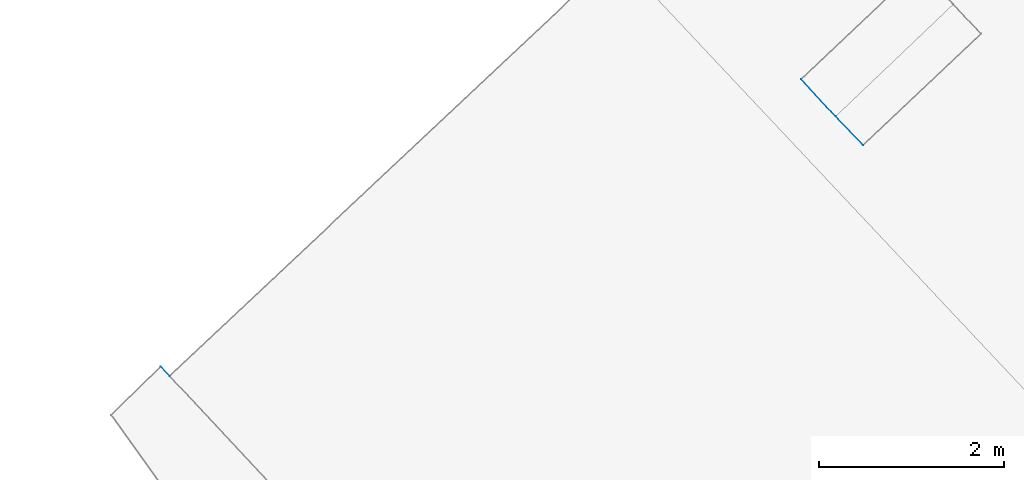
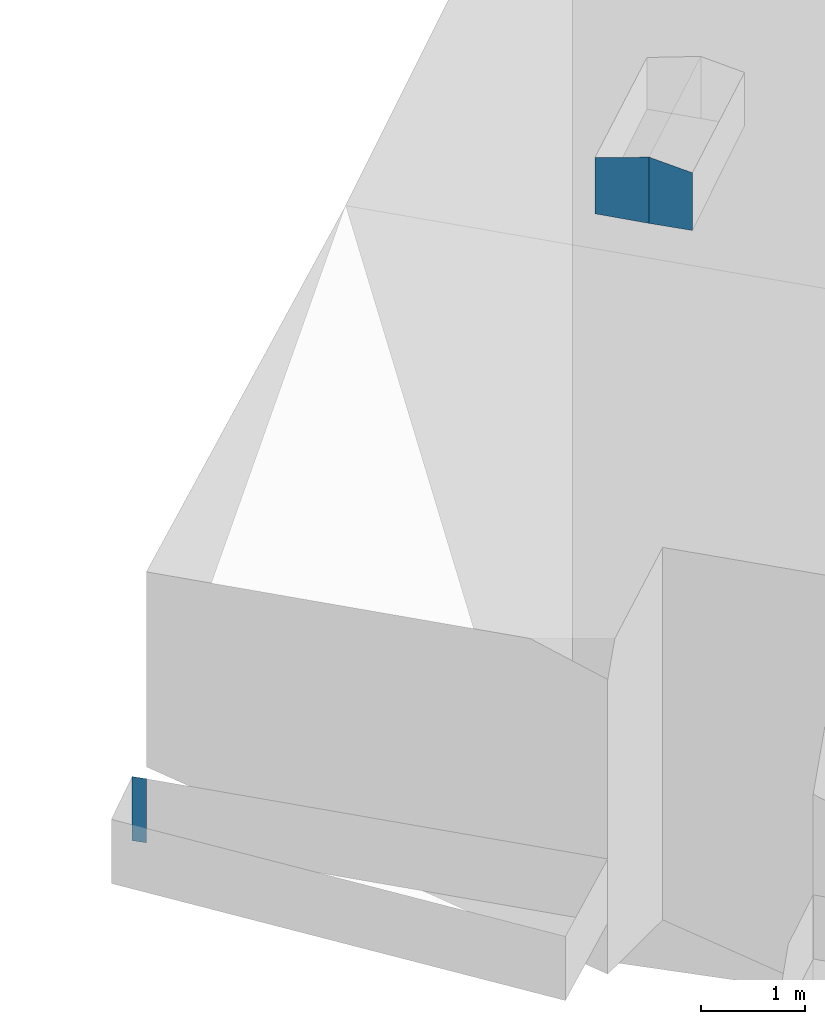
# Not in any storey, part 110 of 136: 4 walls.
"""IFC2X3 building model written with IfcOpenShell, lengths in metres."""

from ifc_helpers import new_model, entity, si_unit, converted_unit, origin, place, context, subcontext, project, spatial, face_set, surface_model, element, save


model = new_model("IFC2X3")

# Units and contexts
model_context = context("Model", 3, precision=1e-05, world=origin())
body_context = subcontext(model_context, "Body", "Model", "MODEL_VIEW")
ifc_project = project(units=[converted_unit("PLANEANGLEUNIT", "DEGREE", entity("IfcRatioMeasure", 0.0174532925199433), si_unit("PLANEANGLEUNIT", "RADIAN"), dimensions=[0, 0, 0, 0, 0, 0, 0]), si_unit("AREAUNIT", "SQUARE_METRE"), si_unit("LENGTHUNIT", "METRE")], contexts=[model_context])

# Site, building
site_placement = place(None, origin())
site = spatial("IfcSite", under=ifc_project, at=site_placement, Name="_site", CompositionType="ELEMENT")
building_placement = place(site_placement, origin())
building = spatial("IfcBuilding", under=site, at=building_placement, Name="_building", CompositionType="ELEMENT")

# Walls
wall_1_placement = place(building_placement, origin())
element("IfcWall", 1, at=wall_1_placement, inside=building, Name="Wall", context=body_context, shape_type="SurfaceModel", body=[
    surface_model("IfcFaceBasedSurfaceModel", [(-4.54, 132.22, 47.63), (-4.44, 132.12, 47.63), (-4.44, 132.12, 48.38), (-4.54, 132.22, 48.38)], [face_set([[[0, 1, 2, 3]]])]),
])
wall_2_placement = place(building_placement, origin())
element("IfcWall", 2, at=wall_2_placement, inside=building, Name="Wall", context=body_context, shape_type="SurfaceModel", body=[
    surface_model("IfcFaceBasedSurfaceModel", [(3.04, 134.61, 51.34), (2.74, 134.92, 51.44), (2.74, 134.92, 50.664), (3.04, 134.61, 50.664)], [face_set([[[0, 1, 2, 3]]])]),
])
wall_3_placement = place(building_placement, origin())
element("IfcWall", 3, at=wall_3_placement, inside=building, Name="Wall", context=body_context, shape_type="SurfaceModel", body=[
    surface_model("IfcFaceBasedSurfaceModel", [(-4.54, 132.22, 47.63), (-4.44, 132.12, 47.63), (-4.44, 132.12, 48.38), (-4.54, 132.22, 48.38)], [face_set([[[0, 1, 2, 3]]])]),
])
wall_4_placement = place(building_placement, origin())
element("IfcWall", 4, at=wall_4_placement, inside=building, Name="Wall", context=body_context, shape_type="SurfaceModel", body=[
    surface_model("IfcFaceBasedSurfaceModel", [(2.74, 134.92, 51.44), (2.37, 135.32, 51.32), (2.37, 135.32, 50.664), (2.74, 134.92, 50.664)], [face_set([[[0, 1, 2, 3]]])]),
])

save(model, "model.ifc")
